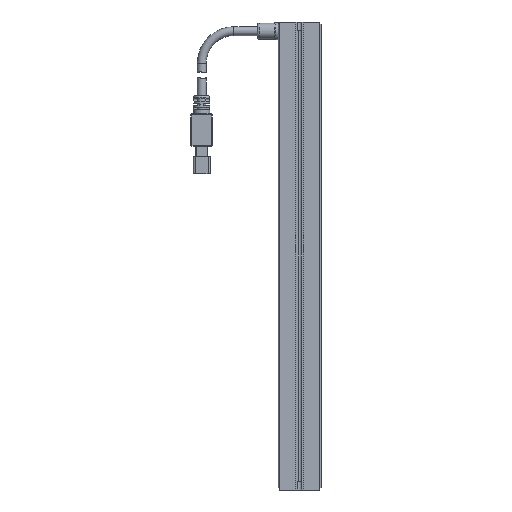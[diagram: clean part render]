
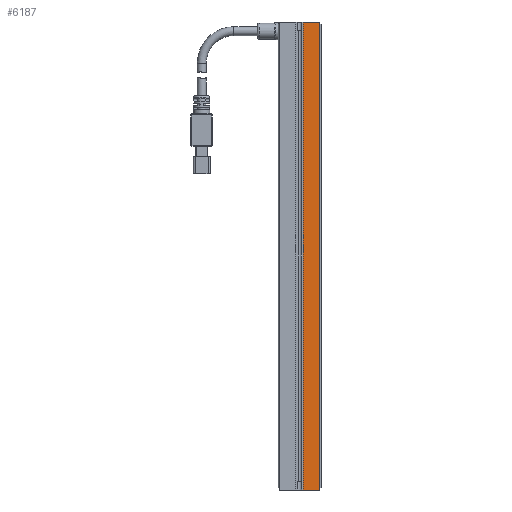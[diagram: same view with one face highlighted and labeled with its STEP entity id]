
A CAD part, front view. The second image highlights one B-rep face of the part: STEP entity #6187.
In plain terms, the highlighted planar face has unit normal (0, -1, 0).
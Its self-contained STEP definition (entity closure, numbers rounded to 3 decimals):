
#699 = DIRECTION ( 'NONE',  ( -0.707, 0., 0.707 ) ) ;
#818 = EDGE_CURVE ( 'NONE', #18218, #12109, #1332, .T. ) ;
#1161 = EDGE_CURVE ( 'NONE', #18218, #17698, #5665, .T. ) ;
#1332 = LINE ( 'NONE', #6982, #16417 ) ;
#1699 = DIRECTION ( 'NONE',  ( 0.707, 0., 0.707 ) ) ;
#1901 = CARTESIAN_POINT ( 'NONE',  ( 9.5, 0., 108.5 ) ) ;
#2014 = EDGE_LOOP ( 'NONE', ( #6373, #8728, #16407, #16782, #6694, #8127 ) ) ;
#2251 = CARTESIAN_POINT ( 'NONE',  ( 9., 0., 109. ) ) ;
#3029 = CARTESIAN_POINT ( 'NONE',  ( 10., 0., -108. ) ) ;
#3762 = LINE ( 'NONE', #14479, #6956 ) ;
#4340 = DIRECTION ( 'NONE',  ( 0., 1., 0. ) ) ;
#4467 = EDGE_CURVE ( 'NONE', #9322, #14857, #6171, .T. ) ;
#4664 = CARTESIAN_POINT ( 'NONE',  ( 0., 0., 109. ) ) ;
#4832 = CARTESIAN_POINT ( 'NONE',  ( 1.75, 0., -109. ) ) ;
#5665 = LINE ( 'NONE', #2251, #16841 ) ;
#6106 = CARTESIAN_POINT ( 'NONE',  ( 9.5, 0., -108.5 ) ) ;
#6162 = EDGE_CURVE ( 'NONE', #14857, #15178, #3762, .T. ) ;
#6171 = LINE ( 'NONE', #13873, #18724 ) ;
#6187 = ADVANCED_FACE ( 'NONE', ( #11050 ), #11671, .F. ) ;
#6373 = ORIENTED_EDGE ( 'NONE', *, *, #818, .F. ) ;
#6471 = DIRECTION ( 'NONE',  ( 0., 0., -1. ) ) ;
#6694 = ORIENTED_EDGE ( 'NONE', *, *, #6162, .T. ) ;
#6956 = VECTOR ( 'NONE', #16066, 1000. ) ;
#6982 = CARTESIAN_POINT ( 'NONE',  ( 9.5, 0., 109. ) ) ;
#7262 = DIRECTION ( 'NONE',  ( -1., 0., 0. ) ) ;
#8078 = VECTOR ( 'NONE', #11947, 1000. ) ;
#8127 = ORIENTED_EDGE ( 'NONE', *, *, #18736, .T. ) ;
#8324 = AXIS2_PLACEMENT_3D ( 'NONE', #17410, #4340, #7262 ) ;
#8728 = ORIENTED_EDGE ( 'NONE', *, *, #1161, .T. ) ;
#8755 = CARTESIAN_POINT ( 'NONE',  ( 9., 0., 109. ) ) ;
#9036 = VECTOR ( 'NONE', #1699, 1000. ) ;
#9322 = VERTEX_POINT ( 'NONE', #13903 ) ;
#9719 = LINE ( 'NONE', #3029, #9036 ) ;
#11050 = FACE_OUTER_BOUND ( 'NONE', #2014, .T. ) ;
#11671 = PLANE ( 'NONE',  #8324 ) ;
#11947 = DIRECTION ( 'NONE',  ( 1., 0., 0. ) ) ;
#11967 = LINE ( 'NONE', #4664, #8078 ) ;
#12109 = VERTEX_POINT ( 'NONE', #6106 ) ;
#13595 = EDGE_CURVE ( 'NONE', #9322, #17698, #11967, .T. ) ;
#13873 = CARTESIAN_POINT ( 'NONE',  ( 1.75, 0., 109. ) ) ;
#13903 = CARTESIAN_POINT ( 'NONE',  ( 1.75, 0., 109. ) ) ;
#14468 = DIRECTION ( 'NONE',  ( 0., 0., -1. ) ) ;
#14479 = CARTESIAN_POINT ( 'NONE',  ( 0., 0., -109. ) ) ;
#14582 = CARTESIAN_POINT ( 'NONE',  ( 9., 0., -109. ) ) ;
#14857 = VERTEX_POINT ( 'NONE', #4832 ) ;
#15178 = VERTEX_POINT ( 'NONE', #14582 ) ;
#16066 = DIRECTION ( 'NONE',  ( 1., 0., 0. ) ) ;
#16407 = ORIENTED_EDGE ( 'NONE', *, *, #13595, .F. ) ;
#16417 = VECTOR ( 'NONE', #14468, 1000. ) ;
#16782 = ORIENTED_EDGE ( 'NONE', *, *, #4467, .T. ) ;
#16841 = VECTOR ( 'NONE', #699, 1000. ) ;
#17410 = CARTESIAN_POINT ( 'NONE',  ( 0., 0., 109. ) ) ;
#17698 = VERTEX_POINT ( 'NONE', #8755 ) ;
#18218 = VERTEX_POINT ( 'NONE', #1901 ) ;
#18724 = VECTOR ( 'NONE', #6471, 1000. ) ;
#18736 = EDGE_CURVE ( 'NONE', #15178, #12109, #9719, .T. ) ;
